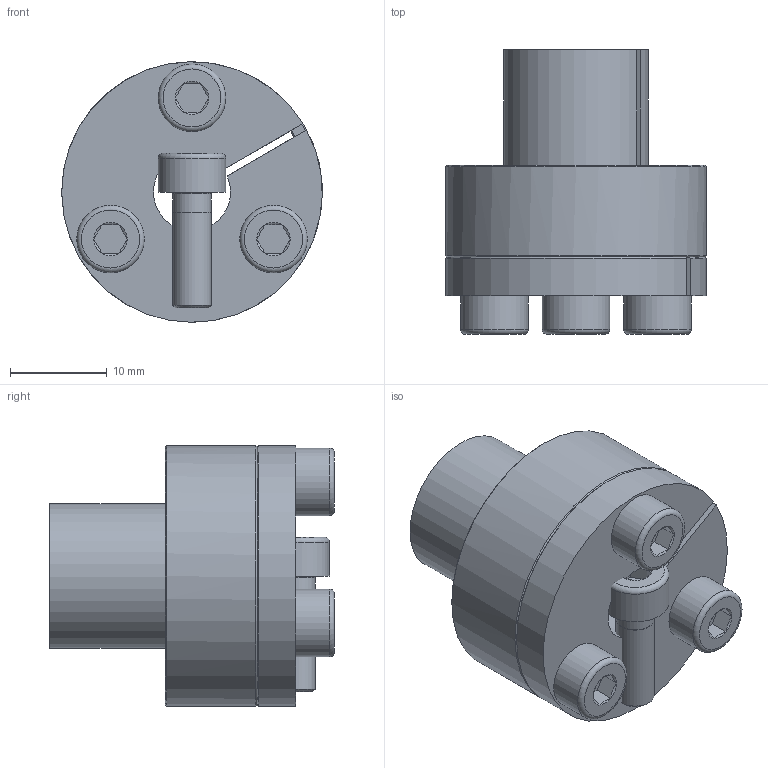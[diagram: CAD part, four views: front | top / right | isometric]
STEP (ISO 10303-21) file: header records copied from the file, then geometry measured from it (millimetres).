
FILE_DESCRIPTION( ( 'Unknown' ), '1' );
FILE_NAME( 'C:/Dokumente und Einstellungen/Sven/Desktop/homepage/cad - homepage/KBS80/KBS 80 - 8 x 15.stp', 'Unknown', ( 'Unknown' ), ( 'Unknown' ), 'XStep 1.0', 'Unknown', ' ' );
FILE_SCHEMA( ( 'automotive_design' ) );
Length unit declared in the file: millimetre
Products named in the file (5): Assem1; KBS 80 - 8 x 15; ISO EN DIN 4762 M4x12; ISO EN DIN 4762 M4x12-oa0; ISO EN DIN 4762 M4x12-oa1
Bounding box: 27 x 29.5 x 27 mm (x, y, z)
Volume: 17582.9 mm3; surface area: 10245.1 mm2
Topology: 8 solids, 8 shells, 196 faces, 384 edges, 226 vertices
Faces by surface type: plane 88, cone 56, cylinder 40, torus 12
Full cylindrical faces by diameter (mm): 3.5 x6, 4 x18, 7 x6, 27 x2
Entity records: 2648 total; most frequent: CARTESIAN_POINT 502, DIRECTION 412, ORIENTED_EDGE 312, AXIS2_PLACEMENT_3D 179, EDGE_CURVE 156, EDGE_LOOP 145, FACE_OUTER_BOUND 120, VERTEX_POINT 105
